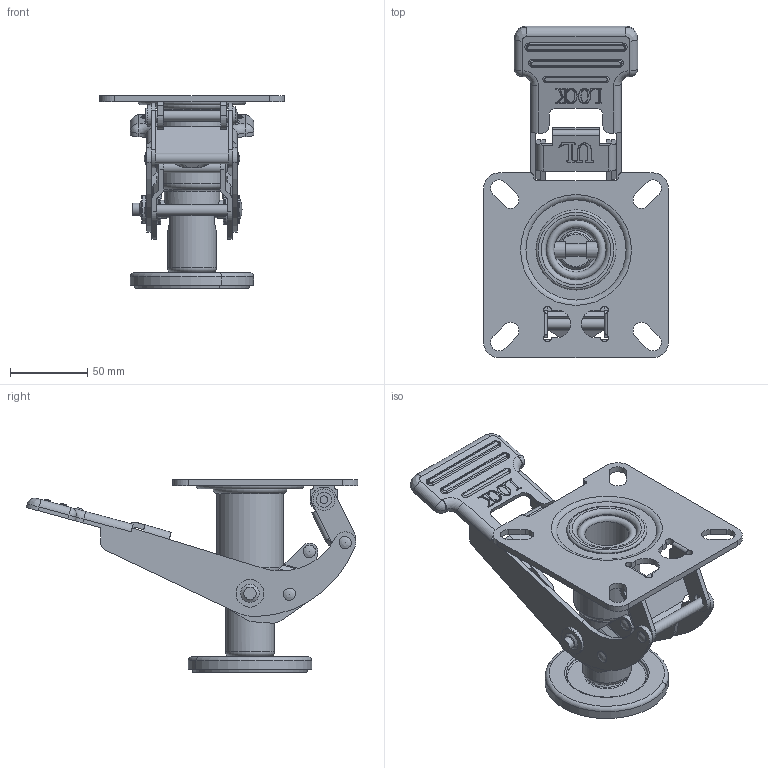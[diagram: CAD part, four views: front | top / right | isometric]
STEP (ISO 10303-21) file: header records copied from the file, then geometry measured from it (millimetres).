
FILE_DESCRIPTION( ( 'STEP AP214' ), '1' );
FILE_NAME( ' ', ' ', ( ' ' ), ( ' ' ), 'PSStep 10.0', ' ', ' ' );
FILE_SCHEMA( ( 'automotive_design' ) );
Length unit declared in the file: millimetre
Products named in the file (19): @4181; @9775; @9788; DAI_LOCK _X2_306E7D50679C_X0_; ENCHU2_LOCK _X2_306E7D50679C_X0_; GOMU_LOCK _X2_306E7D50679C_X0_; @14466; @14468; @14470; @14472; @14474; @14476; @14478; @14480; @14482; @14484; @14486; @14488; @15401
Bounding box: 120 x 215.26 x 125 mm (x, y, z)
Volume: 209024.6 mm3; surface area: 164245 mm2
Topology: 19 solids, 19 shells, 896 faces, 2309 edges, 1519 vertices
Faces by surface type: plane 453, cylinder 324, torus 41, cone 28, extrusion 28, sphere 12, bspline 8, offset 2
Full cylindrical faces by diameter (mm): 5 x1, 5.2 x4, 7 x10, 8 x17, 9 x1, 10 x1, 11 x2, 11.5 x1, 12 x2, 14 x1, 18 x3, 20 x2, 25.4 x1, 28.8 x1, 31.8 x1, 32 x1, 33.8 x1, 36 x1, 39 x1, 43 x1, 52 x1
Entity records: 37047 total; most frequent: CARTESIAN_POINT 7628, DIRECTION 4703, ORIENTED_EDGE 4338, EDGE_CURVE 2169, AXIS2_PLACEMENT_3D 1675, VERTEX_POINT 1476, VECTOR 1353, LINE 1325
